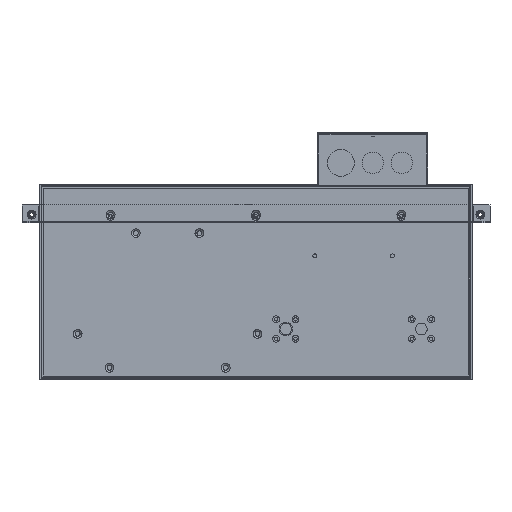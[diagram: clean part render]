
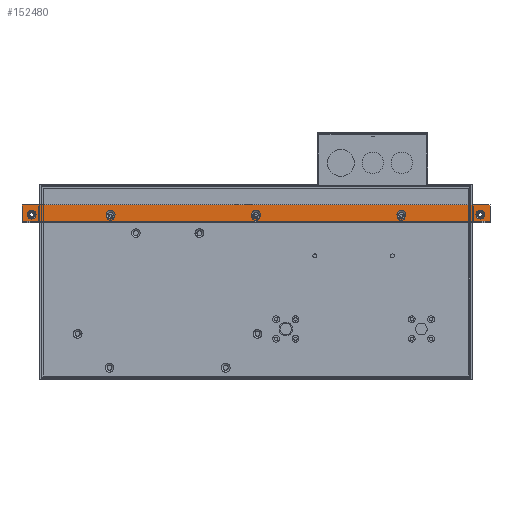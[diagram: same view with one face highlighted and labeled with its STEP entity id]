
A CAD part, front view. The second image highlights one B-rep face of the part: STEP entity #152480.
In plain terms, the highlighted planar face has unit normal (0, -1, 0) as drawn and (-1, 0, 0) by its records, which use the part's own axes.
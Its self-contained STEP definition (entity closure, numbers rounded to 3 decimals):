
#2832 = VERTEX_POINT ( 'NONE', #316974 ) ;
#4210 = CIRCLE ( 'NONE', #289866, 0.177 ) ;
#8573 = ORIENTED_EDGE ( 'NONE', *, *, #181890, .T. ) ;
#12675 = PLANE ( 'NONE',  #196800 ) ;
#18222 = CARTESIAN_POINT ( 'NONE',  ( 0.305, 0.571, -0.03 ) ) ;
#20348 = EDGE_CURVE ( 'NONE', #69638, #298192, #159453, .T. ) ;
#21454 = DIRECTION ( 'NONE',  ( 0., -1., 0. ) ) ;
#21569 = EDGE_CURVE ( 'NONE', #153923, #320903, #50450, .T. ) ;
#30937 = CARTESIAN_POINT ( 'NONE',  ( 0.305, 0.394, -0.03 ) ) ;
#31435 = CARTESIAN_POINT ( 'NONE',  ( 0.305, 9.508, -0.03 ) ) ;
#34358 = EDGE_CURVE ( 'NONE', #226862, #52407, #38999, .T. ) ;
#37235 = ORIENTED_EDGE ( 'NONE', *, *, #102520, .T. ) ;
#38999 = CIRCLE ( 'NONE', #246091, 0.177 ) ;
#39161 = CARTESIAN_POINT ( 'NONE',  ( 0.305, 9.685, -0.03 ) ) ;
#40334 = CIRCLE ( 'NONE', #326005, 0.177 ) ;
#47027 = DIRECTION ( 'NONE',  ( 1., 0., 0. ) ) ;
#50450 = LINE ( 'NONE', #341555, #288890 ) ;
#52109 = DIRECTION ( 'NONE',  ( 0., -1., 0. ) ) ;
#52129 = DIRECTION ( 'NONE',  ( 0., 0., 1. ) ) ;
#52407 = VERTEX_POINT ( 'NONE', #56096 ) ;
#53732 = AXIS2_PLACEMENT_3D ( 'NONE', #330942, #337831, #116988 ) ;
#56096 = CARTESIAN_POINT ( 'NONE',  ( 0.305, 15.591, -0.03 ) ) ;
#61183 = ORIENTED_EDGE ( 'NONE', *, *, #169816, .T. ) ;
#62499 = CARTESIAN_POINT ( 'NONE',  ( 0.305, 0.394, -0.03 ) ) ;
#67477 = CARTESIAN_POINT ( 'NONE',  ( 0.305, 0.217, -0.03 ) ) ;
#69239 = AXIS2_PLACEMENT_3D ( 'NONE', #296290, #191008, #297995 ) ;
#69638 = VERTEX_POINT ( 'NONE', #227065 ) ;
#71045 = VECTOR ( 'NONE', #52129, 39.37 ) ;
#74343 = EDGE_CURVE ( 'NONE', #103208, #224822, #4210, .T. ) ;
#75891 = CARTESIAN_POINT ( 'NONE',  ( 0.305, 0., 0. ) ) ;
#78613 = EDGE_LOOP ( 'NONE', ( #274733, #195967, #37235, #120561 ) ) ;
#78719 = CARTESIAN_POINT ( 'NONE',  ( 0.305, 19.016, -0.305 ) ) ;
#80091 = DIRECTION ( 'NONE',  ( 1., 0., 0. ) ) ;
#80138 = DIRECTION ( 'NONE',  ( 1., 0., 0. ) ) ;
#83552 = DIRECTION ( 'NONE',  ( 0., -1., 0. ) ) ;
#85335 = CARTESIAN_POINT ( 'NONE',  ( 0.305, 19.016, 0. ) ) ;
#89618 = CARTESIAN_POINT ( 'NONE',  ( 0.305, 0., 0.364 ) ) ;
#92227 = DIRECTION ( 'NONE',  ( 0., -1., 0. ) ) ;
#93175 = CARTESIAN_POINT ( 'NONE',  ( 0.305, 15.413, -0.03 ) ) ;
#95055 = FACE_BOUND ( 'NONE', #331017, .T. ) ;
#99619 = CARTESIAN_POINT ( 'NONE',  ( 0.305, 3.602, -0.03 ) ) ;
#102520 = EDGE_CURVE ( 'NONE', #153923, #194654, #342442, .T. ) ;
#103208 = VERTEX_POINT ( 'NONE', #179905 ) ;
#107084 = VERTEX_POINT ( 'NONE', #67477 ) ;
#110716 = EDGE_CURVE ( 'NONE', #107084, #276658, #311804, .T. ) ;
#111032 = ORIENTED_EDGE ( 'NONE', *, *, #224462, .T. ) ;
#116988 = DIRECTION ( 'NONE',  ( 0., -1., 0. ) ) ;
#117215 = CARTESIAN_POINT ( 'NONE',  ( 0.305, 3.78, -0.03 ) ) ;
#119801 = CARTESIAN_POINT ( 'NONE',  ( 0.305, 18.445, -0.03 ) ) ;
#120561 = ORIENTED_EDGE ( 'NONE', *, *, #298610, .F. ) ;
#121109 = DIRECTION ( 'NONE',  ( 0., -1., 0. ) ) ;
#123130 = CIRCLE ( 'NONE', #184755, 0.177 ) ;
#125957 = DIRECTION ( 'NONE',  ( 0., -1., 0. ) ) ;
#126697 = CARTESIAN_POINT ( 'NONE',  ( 0.305, 18.622, -0.03 ) ) ;
#132897 = EDGE_LOOP ( 'NONE', ( #280031, #111032 ) ) ;
#133920 = FACE_BOUND ( 'NONE', #325056, .T. ) ;
#137897 = CARTESIAN_POINT ( 'NONE',  ( 0.305, 0., 0.364 ) ) ;
#138402 = DIRECTION ( 'NONE',  ( 0., -1., 0. ) ) ;
#142214 = CIRCLE ( 'NONE', #243147, 0.177 ) ;
#144753 = CARTESIAN_POINT ( 'NONE',  ( 0.305, 18.622, -0.03 ) ) ;
#145294 = DIRECTION ( 'NONE',  ( 1., 0., 0. ) ) ;
#152480 = ADVANCED_FACE ( 'NONE', ( #267234, #133920, #95055, #226667, #331876, #174034 ), #12675, .F. ) ;
#153923 = VERTEX_POINT ( 'NONE', #265126 ) ;
#159453 = CIRCLE ( 'NONE', #204253, 0.177 ) ;
#165658 = CIRCLE ( 'NONE', #53732, 0.177 ) ;
#168809 = EDGE_LOOP ( 'NONE', ( #276994, #200749 ) ) ;
#169816 = EDGE_CURVE ( 'NONE', #276658, #107084, #142214, .T. ) ;
#174034 = FACE_OUTER_BOUND ( 'NONE', #78613, .T. ) ;
#175477 = LINE ( 'NONE', #89618, #281460 ) ;
#179905 = CARTESIAN_POINT ( 'NONE',  ( 0.305, 18.799, -0.03 ) ) ;
#181890 = EDGE_CURVE ( 'NONE', #312479, #2832, #281546, .T. ) ;
#182881 = DIRECTION ( 'NONE',  ( 0., 0., 1. ) ) ;
#184755 = AXIS2_PLACEMENT_3D ( 'NONE', #31435, #145294, #138402 ) ;
#191008 = DIRECTION ( 'NONE',  ( 1., 0., 0. ) ) ;
#192416 = CIRCLE ( 'NONE', #69239, 0.177 ) ;
#194654 = VERTEX_POINT ( 'NONE', #137897 ) ;
#195967 = ORIENTED_EDGE ( 'NONE', *, *, #21569, .F. ) ;
#196800 = AXIS2_PLACEMENT_3D ( 'NONE', #251255, #202068, #333612 ) ;
#200749 = ORIENTED_EDGE ( 'NONE', *, *, #74343, .T. ) ;
#201199 = EDGE_LOOP ( 'NONE', ( #229827, #61183 ) ) ;
#202068 = DIRECTION ( 'NONE',  ( 1., 0., 0. ) ) ;
#204253 = AXIS2_PLACEMENT_3D ( 'NONE', #313490, #80138, #52109 ) ;
#216624 = VERTEX_POINT ( 'NONE', #296283 ) ;
#224462 = EDGE_CURVE ( 'NONE', #52407, #226862, #192416, .T. ) ;
#224822 = VERTEX_POINT ( 'NONE', #119801 ) ;
#226667 = FACE_BOUND ( 'NONE', #132897, .T. ) ;
#226862 = VERTEX_POINT ( 'NONE', #306347 ) ;
#227065 = CARTESIAN_POINT ( 'NONE',  ( 0.305, 9.331, -0.03 ) ) ;
#229827 = ORIENTED_EDGE ( 'NONE', *, *, #110716, .T. ) ;
#230865 = EDGE_CURVE ( 'NONE', #320903, #216624, #297618, .T. ) ;
#231684 = DIRECTION ( 'NONE',  ( 0., -1., 0. ) ) ;
#243147 = AXIS2_PLACEMENT_3D ( 'NONE', #30937, #80091, #83552 ) ;
#244252 = ORIENTED_EDGE ( 'NONE', *, *, #284567, .T. ) ;
#246091 = AXIS2_PLACEMENT_3D ( 'NONE', #93175, #252817, #231684 ) ;
#251255 = CARTESIAN_POINT ( 'NONE',  ( 0.305, 0., 0.364 ) ) ;
#252817 = DIRECTION ( 'NONE',  ( 1., 0., 0. ) ) ;
#261033 = EDGE_CURVE ( 'NONE', #224822, #103208, #40334, .T. ) ;
#265126 = CARTESIAN_POINT ( 'NONE',  ( 0.305, 0., -0.305 ) ) ;
#267018 = AXIS2_PLACEMENT_3D ( 'NONE', #62499, #278192, #92227 ) ;
#267234 = FACE_BOUND ( 'NONE', #201199, .T. ) ;
#267618 = VECTOR ( 'NONE', #182881, 39.37 ) ;
#274733 = ORIENTED_EDGE ( 'NONE', *, *, #230865, .F. ) ;
#276003 = EDGE_CURVE ( 'NONE', #2832, #312479, #165658, .T. ) ;
#276658 = VERTEX_POINT ( 'NONE', #18222 ) ;
#276994 = ORIENTED_EDGE ( 'NONE', *, *, #261033, .T. ) ;
#278192 = DIRECTION ( 'NONE',  ( 1., 0., 0. ) ) ;
#280031 = ORIENTED_EDGE ( 'NONE', *, *, #34358, .T. ) ;
#281460 = VECTOR ( 'NONE', #121109, 39.37 ) ;
#281546 = CIRCLE ( 'NONE', #320579, 0.177 ) ;
#283279 = ORIENTED_EDGE ( 'NONE', *, *, #276003, .T. ) ;
#284567 = EDGE_CURVE ( 'NONE', #298192, #69638, #123130, .T. ) ;
#288890 = VECTOR ( 'NONE', #294201, 39.37 ) ;
#289866 = AXIS2_PLACEMENT_3D ( 'NONE', #126697, #344136, #21454 ) ;
#294201 = DIRECTION ( 'NONE',  ( 0., 1., 0. ) ) ;
#296283 = CARTESIAN_POINT ( 'NONE',  ( 0.305, 19.016, 0.364 ) ) ;
#296290 = CARTESIAN_POINT ( 'NONE',  ( 0.305, 15.413, -0.03 ) ) ;
#297618 = LINE ( 'NONE', #85335, #71045 ) ;
#297995 = DIRECTION ( 'NONE',  ( 0., -1., 0. ) ) ;
#298192 = VERTEX_POINT ( 'NONE', #39161 ) ;
#298610 = EDGE_CURVE ( 'NONE', #216624, #194654, #175477, .T. ) ;
#306119 = DIRECTION ( 'NONE',  ( 0., -1., 0. ) ) ;
#306347 = CARTESIAN_POINT ( 'NONE',  ( 0.305, 15.236, -0.03 ) ) ;
#311804 = CIRCLE ( 'NONE', #267018, 0.177 ) ;
#312479 = VERTEX_POINT ( 'NONE', #117215 ) ;
#313490 = CARTESIAN_POINT ( 'NONE',  ( 0.305, 9.508, -0.03 ) ) ;
#316974 = CARTESIAN_POINT ( 'NONE',  ( 0.305, 3.425, -0.03 ) ) ;
#320579 = AXIS2_PLACEMENT_3D ( 'NONE', #99619, #47027, #125957 ) ;
#320903 = VERTEX_POINT ( 'NONE', #78719 ) ;
#325056 = EDGE_LOOP ( 'NONE', ( #283279, #8573 ) ) ;
#326005 = AXIS2_PLACEMENT_3D ( 'NONE', #144753, #335862, #306119 ) ;
#330942 = CARTESIAN_POINT ( 'NONE',  ( 0.305, 3.602, -0.03 ) ) ;
#331017 = EDGE_LOOP ( 'NONE', ( #336088, #244252 ) ) ;
#331876 = FACE_BOUND ( 'NONE', #168809, .T. ) ;
#333612 = DIRECTION ( 'NONE',  ( 0., 0., -1. ) ) ;
#335862 = DIRECTION ( 'NONE',  ( 1., 0., 0. ) ) ;
#336088 = ORIENTED_EDGE ( 'NONE', *, *, #20348, .T. ) ;
#337831 = DIRECTION ( 'NONE',  ( 1., 0., 0. ) ) ;
#341555 = CARTESIAN_POINT ( 'NONE',  ( 0.305, 0., -0.305 ) ) ;
#342442 = LINE ( 'NONE', #75891, #267618 ) ;
#344136 = DIRECTION ( 'NONE',  ( 1., 0., 0. ) ) ;
